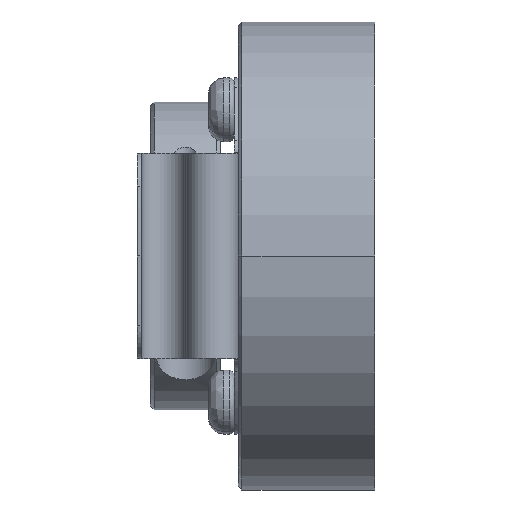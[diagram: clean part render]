
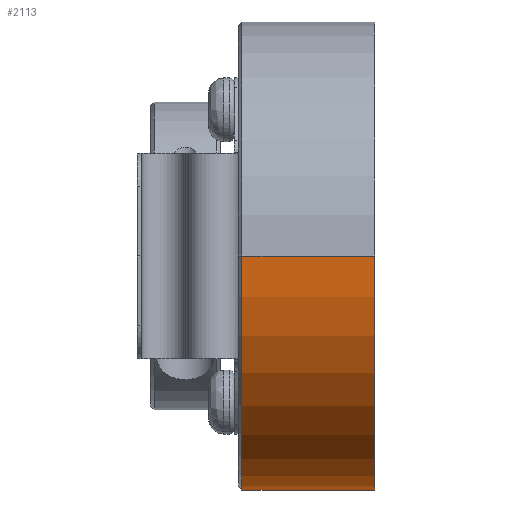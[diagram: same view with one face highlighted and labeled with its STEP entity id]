
A CAD part, front view. The second image highlights one B-rep face of the part: STEP entity #2113.
In plain terms, the highlighted cylindrical face has radius 18.25 mm (diameter 36.5 mm), a partial arc.
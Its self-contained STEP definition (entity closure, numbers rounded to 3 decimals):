
#175 = CARTESIAN_POINT ( 'NONE',  ( -11.65, 0., 0. ) ) ;
#501 = EDGE_CURVE ( 'NONE', #16977, #17501, #15292, .T. ) ;
#1258 = CIRCLE ( 'NONE', #7509, 18.25 ) ;
#1445 = ORIENTED_EDGE ( 'NONE', *, *, #21591, .F. ) ;
#1629 = EDGE_CURVE ( 'NONE', #17501, #4638, #1258, .T. ) ;
#2113 = ADVANCED_FACE ( 'NONE', ( #2548 ), #12771, .T. ) ;
#2403 = CARTESIAN_POINT ( 'NONE',  ( -1000., -18.25, 0. ) ) ;
#2525 = CIRCLE ( 'NONE', #17270, 18.25 ) ;
#2548 = FACE_OUTER_BOUND ( 'NONE', #19347, .T. ) ;
#4102 = LINE ( 'NONE', #13265, #15643 ) ;
#4638 = VERTEX_POINT ( 'NONE', #21452 ) ;
#6793 = CARTESIAN_POINT ( 'NONE',  ( -1000., 0., 0. ) ) ;
#7509 = AXIS2_PLACEMENT_3D ( 'NONE', #175, #10516, #16712 ) ;
#8455 = DIRECTION ( 'NONE',  ( 0., 1., 0. ) ) ;
#9681 = EDGE_CURVE ( 'NONE', #17925, #16977, #2525, .T. ) ;
#10516 = DIRECTION ( 'NONE',  ( 1., 0., 0. ) ) ;
#10755 = VECTOR ( 'NONE', #17667, 1000. ) ;
#10901 = ORIENTED_EDGE ( 'NONE', *, *, #1629, .T. ) ;
#11458 = DIRECTION ( 'NONE',  ( -1., 0., 0. ) ) ;
#12771 = CYLINDRICAL_SURFACE ( 'NONE', #17396, 18.25 ) ;
#13192 = DIRECTION ( 'NONE',  ( 0., 1., 0. ) ) ;
#13265 = CARTESIAN_POINT ( 'NONE',  ( -1000., 18.25, 0. ) ) ;
#14655 = CARTESIAN_POINT ( 'NONE',  ( -1.3, 0., 0. ) ) ;
#15292 = LINE ( 'NONE', #2403, #10755 ) ;
#15643 = VECTOR ( 'NONE', #11458, 1000. ) ;
#15688 = ORIENTED_EDGE ( 'NONE', *, *, #9681, .T. ) ;
#16522 = DIRECTION ( 'NONE',  ( -1., 0., 0. ) ) ;
#16712 = DIRECTION ( 'NONE',  ( 0., 1., 0. ) ) ;
#16977 = VERTEX_POINT ( 'NONE', #18518 ) ;
#17270 = AXIS2_PLACEMENT_3D ( 'NONE', #14655, #16522, #13192 ) ;
#17396 = AXIS2_PLACEMENT_3D ( 'NONE', #6793, #20497, #8455 ) ;
#17501 = VERTEX_POINT ( 'NONE', #22216 ) ;
#17667 = DIRECTION ( 'NONE',  ( -1., 0., 0. ) ) ;
#17925 = VERTEX_POINT ( 'NONE', #19179 ) ;
#18518 = CARTESIAN_POINT ( 'NONE',  ( -1.3, -18.25, 0. ) ) ;
#19179 = CARTESIAN_POINT ( 'NONE',  ( -1.3, 18.25, 0. ) ) ;
#19347 = EDGE_LOOP ( 'NONE', ( #15688, #21252, #10901, #1445 ) ) ;
#20497 = DIRECTION ( 'NONE',  ( -1., 0., 0. ) ) ;
#21252 = ORIENTED_EDGE ( 'NONE', *, *, #501, .T. ) ;
#21452 = CARTESIAN_POINT ( 'NONE',  ( -11.65, 18.25, 0. ) ) ;
#21591 = EDGE_CURVE ( 'NONE', #17925, #4638, #4102, .T. ) ;
#22216 = CARTESIAN_POINT ( 'NONE',  ( -11.65, -18.25, 0. ) ) ;
